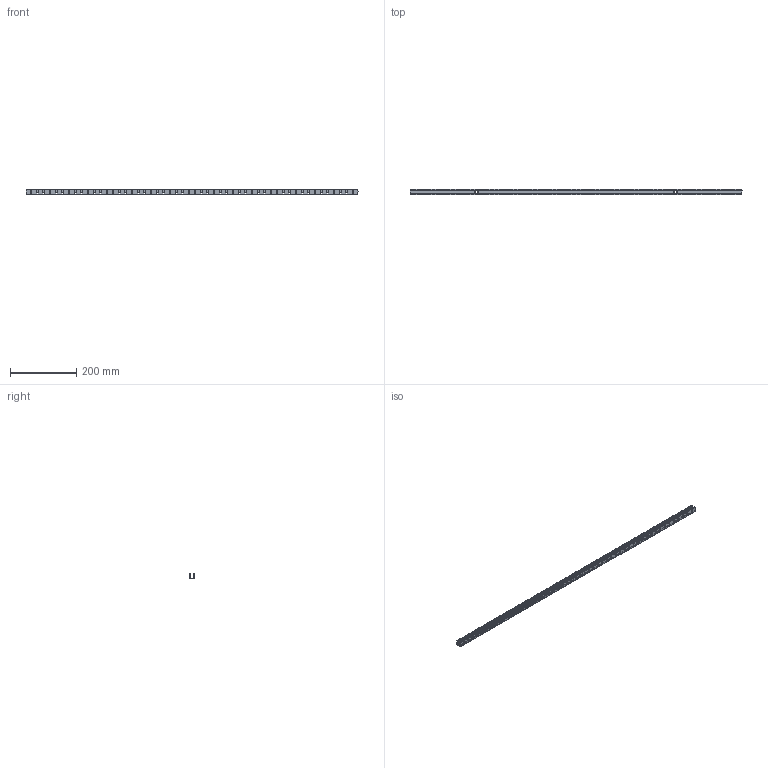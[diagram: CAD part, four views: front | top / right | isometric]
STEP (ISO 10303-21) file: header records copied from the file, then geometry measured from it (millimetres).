
FILE_DESCRIPTION(/* description */ (''),/* implementation_level */ '2;1');
FILE_NAME(/* name */ 'NF_1010_CURVED_PROFILE_TOP_BEND_L1000_R02.step',/* time_stamp */ '2026-07-24T14:29:37+02:00',/* author */ (''),/* organization */ (''),/* preprocessor_version */ 'ST-DEVELOPER v20.1',/* originating_system */ 'Autodesk Translation Framework v15.8.0.0',/* authorisation */ '');
FILE_SCHEMA (('AUTOMOTIVE_DESIGN { 1 0 10303 214 3 1 1 }'));
Products named in the file (1): 2026-07-14-11-20-51-099
Bounding box: 1000 x 15.86 x 14.9 mm (x, y, z)
Volume: 70242.9 mm3; surface area: 149545.6 mm2
Topology: 3 solids, 3 shells, 2538 faces, 8220 edges, 5480 vertices
Faces by surface type: plane 1730, cylinder 751, bspline 57
Entity records: 91408 total; most frequent: CARTESIAN_POINT 17816, ORIENTED_EDGE 16440, DIRECTION 14592, EDGE_CURVE 8220, LINE 6604, VECTOR 6604, VERTEX_POINT 5480, AXIS2_PLACEMENT_3D 3994
